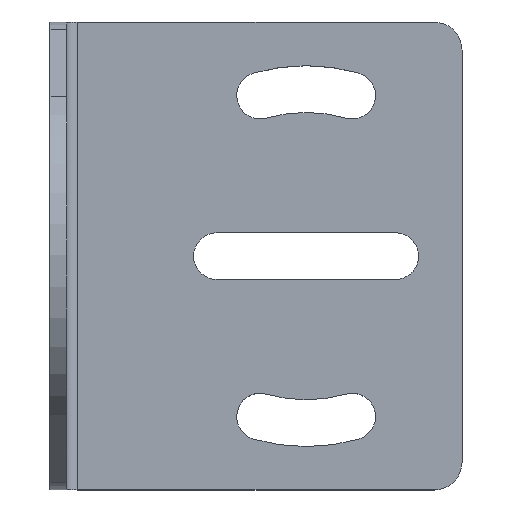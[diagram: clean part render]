
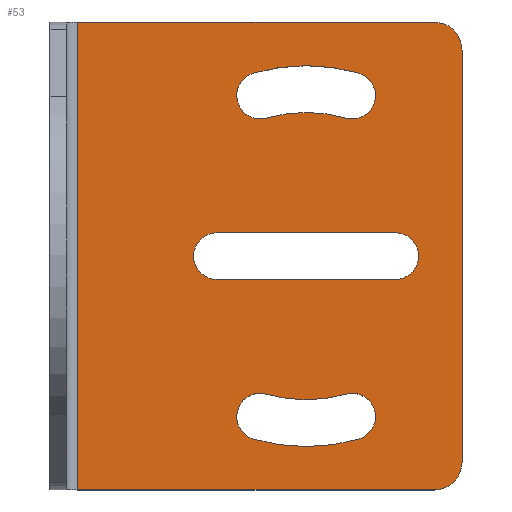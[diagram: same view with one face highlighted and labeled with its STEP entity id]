
A CAD part, top view. The second image highlights one B-rep face of the part: STEP entity #53.
In plain terms, the highlighted planar face has unit normal (0, 0, 1).
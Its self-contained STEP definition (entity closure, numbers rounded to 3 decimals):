
#53 = ADVANCED_FACE( '', ( #128, #129, #130, #131 ), #132, .F. );
#128 = FACE_BOUND( '', #231, .T. );
#129 = FACE_BOUND( '', #232, .T. );
#130 = FACE_BOUND( '', #233, .T. );
#131 = FACE_OUTER_BOUND( '', #234, .T. );
#132 = PLANE( '', #235 );
#231 = EDGE_LOOP( '', ( #328, #329, #330, #331 ) );
#232 = EDGE_LOOP( '', ( #332, #333, #334, #335 ) );
#233 = EDGE_LOOP( '', ( #336, #337, #338, #339 ) );
#234 = EDGE_LOOP( '', ( #340, #341, #342, #343, #344, #345 ) );
#235 = AXIS2_PLACEMENT_3D( '', #346, #347, #348 );
#328 = ORIENTED_EDGE( '', *, *, #604, .F. );
#329 = ORIENTED_EDGE( '', *, *, #605, .F. );
#330 = ORIENTED_EDGE( '', *, *, #606, .F. );
#331 = ORIENTED_EDGE( '', *, *, #607, .F. );
#332 = ORIENTED_EDGE( '', *, *, #608, .F. );
#333 = ORIENTED_EDGE( '', *, *, #609, .F. );
#334 = ORIENTED_EDGE( '', *, *, #610, .F. );
#335 = ORIENTED_EDGE( '', *, *, #611, .F. );
#336 = ORIENTED_EDGE( '', *, *, #612, .F. );
#337 = ORIENTED_EDGE( '', *, *, #613, .F. );
#338 = ORIENTED_EDGE( '', *, *, #614, .F. );
#339 = ORIENTED_EDGE( '', *, *, #615, .F. );
#340 = ORIENTED_EDGE( '', *, *, #616, .T. );
#341 = ORIENTED_EDGE( '', *, *, #617, .T. );
#342 = ORIENTED_EDGE( '', *, *, #618, .T. );
#343 = ORIENTED_EDGE( '', *, *, #619, .T. );
#344 = ORIENTED_EDGE( '', *, *, #620, .F. );
#345 = ORIENTED_EDGE( '', *, *, #621, .T. );
#346 = CARTESIAN_POINT( '', ( 37., -21., 1.5 ) );
#347 = DIRECTION( '', ( 0., 0., -1. ) );
#348 = DIRECTION( '', ( -1., 0., 0. ) );
#604 = EDGE_CURVE( '', #713, #714, #715, .T. );
#605 = EDGE_CURVE( '', #716, #713, #717, .T. );
#606 = EDGE_CURVE( '', #718, #716, #719, .T. );
#607 = EDGE_CURVE( '', #714, #718, #720, .T. );
#608 = EDGE_CURVE( '', #721, #722, #723, .T. );
#609 = EDGE_CURVE( '', #724, #721, #725, .T. );
#610 = EDGE_CURVE( '', #726, #724, #727, .T. );
#611 = EDGE_CURVE( '', #722, #726, #728, .T. );
#612 = EDGE_CURVE( '', #729, #730, #731, .T. );
#613 = EDGE_CURVE( '', #732, #729, #733, .T. );
#614 = EDGE_CURVE( '', #734, #732, #735, .T. );
#615 = EDGE_CURVE( '', #730, #734, #736, .T. );
#616 = EDGE_CURVE( '', #737, #738, #739, .T. );
#617 = EDGE_CURVE( '', #738, #740, #741, .F. );
#618 = EDGE_CURVE( '', #740, #742, #743, .T. );
#619 = EDGE_CURVE( '', #742, #744, #745, .F. );
#620 = EDGE_CURVE( '', #746, #744, #747, .T. );
#621 = EDGE_CURVE( '', #746, #737, #748, .F. );
#713 = VERTEX_POINT( '', #876 );
#714 = VERTEX_POINT( '', #877 );
#715 = CIRCLE( '', #878, 17.1 );
#716 = VERTEX_POINT( '', #879 );
#717 = CIRCLE( '', #880, 2.1 );
#718 = VERTEX_POINT( '', #881 );
#719 = CIRCLE( '', #882, 12.9 );
#720 = CIRCLE( '', #883, 2.1 );
#721 = VERTEX_POINT( '', #884 );
#722 = VERTEX_POINT( '', #885 );
#723 = CIRCLE( '', #886, 17.1 );
#724 = VERTEX_POINT( '', #887 );
#725 = CIRCLE( '', #888, 2.1 );
#726 = VERTEX_POINT( '', #889 );
#727 = CIRCLE( '', #890, 12.9 );
#728 = CIRCLE( '', #891, 2.1 );
#729 = VERTEX_POINT( '', #892 );
#730 = VERTEX_POINT( '', #893 );
#731 = LINE( '', #894, #895 );
#732 = VERTEX_POINT( '', #896 );
#733 = CIRCLE( '', #897, 2.1 );
#734 = VERTEX_POINT( '', #898 );
#735 = LINE( '', #899, #900 );
#736 = CIRCLE( '', #901, 2.1 );
#737 = VERTEX_POINT( '', #902 );
#738 = VERTEX_POINT( '', #903 );
#739 = LINE( '', #904, #905 );
#740 = VERTEX_POINT( '', #906 );
#741 = CIRCLE( '', #907, 2.5 );
#742 = VERTEX_POINT( '', #908 );
#743 = LINE( '', #909, #910 );
#744 = VERTEX_POINT( '', #911 );
#745 = LINE( '', #912, #913 );
#746 = VERTEX_POINT( '', #914 );
#747 = LINE( '', #915, #916 );
#748 = CIRCLE( '', #917, 2.5 );
#876 = CARTESIAN_POINT( '', ( 18.287, -16.438, 1.5 ) );
#877 = CARTESIAN_POINT( '', ( 27.713, -16.438, 1.5 ) );
#878 = AXIS2_PLACEMENT_3D( '', #1082, #1083, #1084 );
#879 = CARTESIAN_POINT( '', ( 19.444, -12.4, 1.5 ) );
#880 = AXIS2_PLACEMENT_3D( '', #1085, #1086, #1087 );
#881 = CARTESIAN_POINT( '', ( 26.556, -12.4, 1.5 ) );
#882 = AXIS2_PLACEMENT_3D( '', #1088, #1089, #1090 );
#883 = AXIS2_PLACEMENT_3D( '', #1091, #1092, #1093 );
#884 = CARTESIAN_POINT( '', ( 27.713, 16.438, 1.5 ) );
#885 = CARTESIAN_POINT( '', ( 18.287, 16.438, 1.5 ) );
#886 = AXIS2_PLACEMENT_3D( '', #1094, #1095, #1096 );
#887 = CARTESIAN_POINT( '', ( 26.556, 12.4, 1.5 ) );
#888 = AXIS2_PLACEMENT_3D( '', #1097, #1098, #1099 );
#889 = CARTESIAN_POINT( '', ( 19.444, 12.4, 1.5 ) );
#890 = AXIS2_PLACEMENT_3D( '', #1100, #1101, #1102 );
#891 = AXIS2_PLACEMENT_3D( '', #1103, #1104, #1105 );
#892 = CARTESIAN_POINT( '', ( 31., 2.1, 1.5 ) );
#893 = CARTESIAN_POINT( '', ( 15., 2.1, 1.5 ) );
#894 = CARTESIAN_POINT( '', ( 15., 2.1, 1.5 ) );
#895 = VECTOR( '', #1106, 1000. );
#896 = CARTESIAN_POINT( '', ( 31., -2.1, 1.5 ) );
#897 = AXIS2_PLACEMENT_3D( '', #1107, #1108, #1109 );
#898 = CARTESIAN_POINT( '', ( 15., -2.1, 1.5 ) );
#899 = CARTESIAN_POINT( '', ( 15., -2.1, 1.5 ) );
#900 = VECTOR( '', #1110, 1000. );
#901 = AXIS2_PLACEMENT_3D( '', #1111, #1112, #1113 );
#902 = CARTESIAN_POINT( '', ( 37., -18.5, 1.5 ) );
#903 = CARTESIAN_POINT( '', ( 37., 18.5, 1.5 ) );
#904 = CARTESIAN_POINT( '', ( 37., -21., 1.5 ) );
#905 = VECTOR( '', #1114, 1000. );
#906 = CARTESIAN_POINT( '', ( 34.5, 21., 1.5 ) );
#907 = AXIS2_PLACEMENT_3D( '', #1115, #1116, #1117 );
#908 = CARTESIAN_POINT( '', ( 2.5, 21., 1.5 ) );
#909 = CARTESIAN_POINT( '', ( 37., 21., 1.5 ) );
#910 = VECTOR( '', #1118, 1000. );
#911 = CARTESIAN_POINT( '', ( 2.5, -21., 1.5 ) );
#912 = CARTESIAN_POINT( '', ( 2.5, -21., 1.5 ) );
#913 = VECTOR( '', #1119, 1000. );
#914 = CARTESIAN_POINT( '', ( 34.5, -21., 1.5 ) );
#915 = CARTESIAN_POINT( '', ( 37., -21., 1.5 ) );
#916 = VECTOR( '', #1120, 1000. );
#917 = AXIS2_PLACEMENT_3D( '', #1121, #1122, #1123 );
#1082 = CARTESIAN_POINT( '', ( 23., 0., 1.5 ) );
#1083 = DIRECTION( '', ( 0., 0., 1. ) );
#1084 = DIRECTION( '', ( 1., 0., 0. ) );
#1085 = CARTESIAN_POINT( '', ( 18.865, -14.419, 1.5 ) );
#1086 = DIRECTION( '', ( 0., 0., 1. ) );
#1087 = DIRECTION( '', ( 1., 0., 0. ) );
#1088 = CARTESIAN_POINT( '', ( 23., 0., 1.5 ) );
#1089 = DIRECTION( '', ( 0., 0., -1. ) );
#1090 = DIRECTION( '', ( 1., 0., 0. ) );
#1091 = CARTESIAN_POINT( '', ( 27.135, -14.419, 1.5 ) );
#1092 = DIRECTION( '', ( 0., 0., 1. ) );
#1093 = DIRECTION( '', ( -1., 0., 0. ) );
#1094 = CARTESIAN_POINT( '', ( 23., 0., 1.5 ) );
#1095 = DIRECTION( '', ( 0., 0., 1. ) );
#1096 = DIRECTION( '', ( 1., 0., 0. ) );
#1097 = CARTESIAN_POINT( '', ( 27.135, 14.419, 1.5 ) );
#1098 = DIRECTION( '', ( 0., 0., 1. ) );
#1099 = DIRECTION( '', ( -1., 0., 0. ) );
#1100 = CARTESIAN_POINT( '', ( 23., 0., 1.5 ) );
#1101 = DIRECTION( '', ( 0., 0., -1. ) );
#1102 = DIRECTION( '', ( 1., 0., 0. ) );
#1103 = CARTESIAN_POINT( '', ( 18.865, 14.419, 1.5 ) );
#1104 = DIRECTION( '', ( 0., 0., 1. ) );
#1105 = DIRECTION( '', ( 1., 0., 0. ) );
#1106 = DIRECTION( '', ( -1., 0., 0. ) );
#1107 = CARTESIAN_POINT( '', ( 31., 0., 1.5 ) );
#1108 = DIRECTION( '', ( 0., 0., 1. ) );
#1109 = DIRECTION( '', ( -1., 0., 0. ) );
#1110 = DIRECTION( '', ( 1., 0., 0. ) );
#1111 = CARTESIAN_POINT( '', ( 15., 0., 1.5 ) );
#1112 = DIRECTION( '', ( 0., 0., 1. ) );
#1113 = DIRECTION( '', ( 1., 0., 0. ) );
#1114 = DIRECTION( '', ( 0., 1., 0. ) );
#1115 = CARTESIAN_POINT( '', ( 34.5, 18.5, 1.5 ) );
#1116 = DIRECTION( '', ( 0., 0., -1. ) );
#1117 = DIRECTION( '', ( -1., 0., 0. ) );
#1118 = DIRECTION( '', ( -1., 0., 0. ) );
#1119 = DIRECTION( '', ( 0., 1., 0. ) );
#1120 = DIRECTION( '', ( -1., 0., 0. ) );
#1121 = CARTESIAN_POINT( '', ( 34.5, -18.5, 1.5 ) );
#1122 = DIRECTION( '', ( 0., 0., -1. ) );
#1123 = DIRECTION( '', ( -1., 0., 0. ) );
